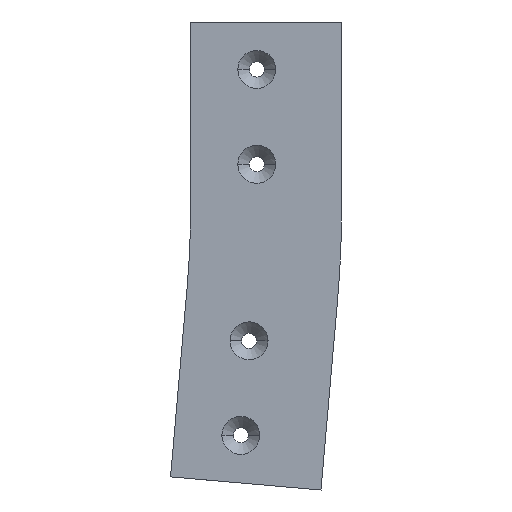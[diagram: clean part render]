
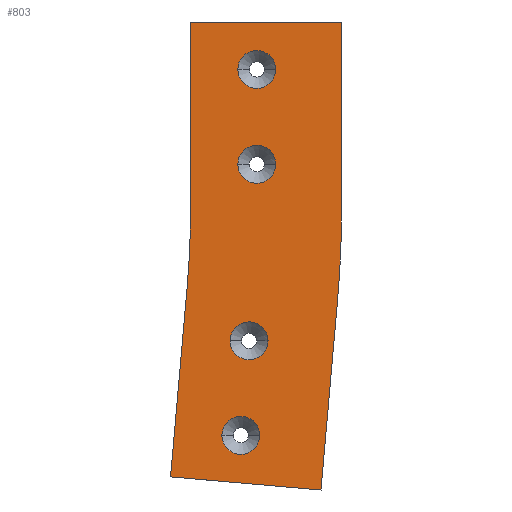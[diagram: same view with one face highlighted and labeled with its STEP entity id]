
A CAD part, left-side view. The second image highlights one B-rep face of the part: STEP entity #803.
In plain terms, the highlighted planar face has unit normal (-1, 0, 0).
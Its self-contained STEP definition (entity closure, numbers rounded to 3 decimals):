
#153 = DIRECTION ( 'NONE',  ( 0., -1., 0. ) ) ;
#154 = DIRECTION ( 'NONE',  ( -1., 0., 0. ) ) ;
#155 = CARTESIAN_POINT ( 'NONE',  ( -35., 39.8, -100. ) ) ;
#156 = PLANE ( 'NONE',  #2331 ) ;
#339 = CARTESIAN_POINT ( 'NONE',  ( -35., 39.8, 0. ) ) ;
#340 = CARTESIAN_POINT ( 'NONE',  ( -35., -5.2, -25. ) ) ;
#341 = CARTESIAN_POINT ( 'NONE',  ( -35., 41.551, -140.109 ) ) ;
#349 = CARTESIAN_POINT ( 'NONE',  ( -35., 3.221, -217.874 ) ) ;
#350 = CARTESIAN_POINT ( 'NONE',  ( -35., 50.267, -239.729 ) ) ;
#355 = CARTESIAN_POINT ( 'NONE',  ( -35., 39.8, -100. ) ) ;
#356 = CARTESIAN_POINT ( 'NONE',  ( -35., -5.2, -75. ) ) ;
#359 = CARTESIAN_POINT ( 'NONE',  ( -35., 18.863, -168.064 ) ) ;
#361 = CARTESIAN_POINT ( 'NONE',  ( -35., -29.03, -246.666 ) ) ;
#363 = CARTESIAN_POINT ( 'NONE',  ( -35., -37.746, -147.047 ) ) ;
#364 = CARTESIAN_POINT ( 'NONE',  ( -35., -1.137, -168.064 ) ) ;
#371 = CARTESIAN_POINT ( 'NONE',  ( -35., 23.221, -217.874 ) ) ;
#375 = CARTESIAN_POINT ( 'NONE',  ( -35., 14.8, -75. ) ) ;
#397 = CARTESIAN_POINT ( 'NONE',  ( -35., 14.8, -25. ) ) ;
#400 = CARTESIAN_POINT ( 'NONE',  ( -35., -39.8, 0. ) ) ;
#404 = CARTESIAN_POINT ( 'NONE',  ( -35., -39.8, -100. ) ) ;
#669 = VERTEX_POINT ( 'NONE', #404 ) ;
#673 = VERTEX_POINT ( 'NONE', #400 ) ;
#676 = VERTEX_POINT ( 'NONE', #397 ) ;
#698 = VERTEX_POINT ( 'NONE', #375 ) ;
#702 = VERTEX_POINT ( 'NONE', #371 ) ;
#709 = VERTEX_POINT ( 'NONE', #364 ) ;
#710 = VERTEX_POINT ( 'NONE', #363 ) ;
#712 = VERTEX_POINT ( 'NONE', #361 ) ;
#714 = VERTEX_POINT ( 'NONE', #359 ) ;
#717 = VERTEX_POINT ( 'NONE', #356 ) ;
#718 = VERTEX_POINT ( 'NONE', #355 ) ;
#723 = VERTEX_POINT ( 'NONE', #350 ) ;
#724 = VERTEX_POINT ( 'NONE', #349 ) ;
#732 = VERTEX_POINT ( 'NONE', #341 ) ;
#733 = VERTEX_POINT ( 'NONE', #340 ) ;
#734 = VERTEX_POINT ( 'NONE', #339 ) ;
#803 = ADVANCED_FACE ( 'NONE', ( #2949, #2948, #2947, #2946, #2945 ), #156, .T. ) ;
#873 = VECTOR ( 'NONE', #1880, 1000. ) ;
#874 = LINE ( 'NONE', #1886, #873 ) ;
#875 = VECTOR ( 'NONE', #1885, 1000. ) ;
#876 = CIRCLE ( 'NONE', #2212, 10. ) ;
#877 = LINE ( 'NONE', #1878, #875 ) ;
#878 = CIRCLE ( 'NONE', #2657, 10. ) ;
#879 = CIRCLE ( 'NONE', #2233, 10. ) ;
#881 = CIRCLE ( 'NONE', #2223, 10. ) ;
#886 = VECTOR ( 'NONE', #1836, 1000. ) ;
#888 = LINE ( 'NONE', #1826, #886 ) ;
#892 = CIRCLE ( 'NONE', #2232, 539.8 ) ;
#936 = CIRCLE ( 'NONE', #2189, 460.2 ) ;
#948 = VECTOR ( 'NONE', #1411, 1000. ) ;
#949 = LINE ( 'NONE', #1413, #948 ) ;
#1059 = VECTOR ( 'NONE', #1519, 1000. ) ;
#1063 = LINE ( 'NONE', #1520, #1059 ) ;
#1104 = VECTOR ( 'NONE', #1865, 1000. ) ;
#1110 = CIRCLE ( 'NONE', #2195, 10. ) ;
#1111 = LINE ( 'NONE', #1868, #1104 ) ;
#1123 = CIRCLE ( 'NONE', #2197, 10. ) ;
#1129 = CIRCLE ( 'NONE', #2200, 10. ) ;
#1135 = CIRCLE ( 'NONE', #2202, 10. ) ;
#1389 = DIRECTION ( 'NONE',  ( 0., 0., -1. ) ) ;
#1390 = DIRECTION ( 'NONE',  ( 1., 0., 0. ) ) ;
#1391 = CARTESIAN_POINT ( 'NONE',  ( -35., 500., -100. ) ) ;
#1411 = DIRECTION ( 'NONE',  ( 0., 0.087, -0.996 ) ) ;
#1413 = CARTESIAN_POINT ( 'NONE',  ( -35., -37.746, -147.047 ) ) ;
#1519 = DIRECTION ( 'NONE',  ( 0., 0.087, -0.996 ) ) ;
#1520 = CARTESIAN_POINT ( 'NONE',  ( -35., 41.551, -140.109 ) ) ;
#1577 = DIRECTION ( 'NONE',  ( 0., -1., 0. ) ) ;
#1578 = DIRECTION ( 'NONE',  ( 1., 0., 0. ) ) ;
#1582 = CARTESIAN_POINT ( 'NONE',  ( -35., 4.8, -25. ) ) ;
#1604 = DIRECTION ( 'NONE',  ( 0., -1., 0. ) ) ;
#1606 = DIRECTION ( 'NONE',  ( 1., 0., 0. ) ) ;
#1608 = CARTESIAN_POINT ( 'NONE',  ( -35., 4.8, -75. ) ) ;
#1623 = DIRECTION ( 'NONE',  ( 0., -1., 0. ) ) ;
#1624 = DIRECTION ( 'NONE',  ( 1., 0., 0. ) ) ;
#1625 = CARTESIAN_POINT ( 'NONE',  ( -35., 8.863, -168.064 ) ) ;
#1642 = DIRECTION ( 'NONE',  ( 0., -1., 0. ) ) ;
#1643 = DIRECTION ( 'NONE',  ( 1., 0., 0. ) ) ;
#1644 = CARTESIAN_POINT ( 'NONE',  ( -35., 13.221, -217.874 ) ) ;
#1826 = CARTESIAN_POINT ( 'NONE',  ( -35., -39.8, -100. ) ) ;
#1829 = DIRECTION ( 'NONE',  ( 1., 0., 0. ) ) ;
#1833 = CARTESIAN_POINT ( 'NONE',  ( -35., 500., -100. ) ) ;
#1835 = DIRECTION ( 'NONE',  ( 0., 0., -1. ) ) ;
#1836 = DIRECTION ( 'NONE',  ( 0., 0., 1. ) ) ;
#1838 = CARTESIAN_POINT ( 'NONE',  ( -35., 4.8, -25. ) ) ;
#1865 = DIRECTION ( 'NONE',  ( 0., -0.996, -0.087 ) ) ;
#1868 = CARTESIAN_POINT ( 'NONE',  ( -35., 50.267, -239.729 ) ) ;
#1875 = DIRECTION ( 'NONE',  ( 0., -1., 0. ) ) ;
#1876 = CARTESIAN_POINT ( 'NONE',  ( -35., 13.221, -217.874 ) ) ;
#1878 = CARTESIAN_POINT ( 'NONE',  ( -35., 39.8, 0. ) ) ;
#1880 = DIRECTION ( 'NONE',  ( 0., 0., 1. ) ) ;
#1881 = DIRECTION ( 'NONE',  ( 1., 0., 0. ) ) ;
#1882 = DIRECTION ( 'NONE',  ( 0., -1., 0. ) ) ;
#1885 = DIRECTION ( 'NONE',  ( 0., -1., 0. ) ) ;
#1886 = CARTESIAN_POINT ( 'NONE',  ( -35., 39.8, -100. ) ) ;
#1888 = CARTESIAN_POINT ( 'NONE',  ( -35., 8.863, -168.064 ) ) ;
#1889 = DIRECTION ( 'NONE',  ( 1., 0., 0. ) ) ;
#1890 = CARTESIAN_POINT ( 'NONE',  ( -35., 4.8, -75. ) ) ;
#1891 = DIRECTION ( 'NONE',  ( 1., 0., 0. ) ) ;
#1892 = DIRECTION ( 'NONE',  ( 0., -1., 0. ) ) ;
#1894 = DIRECTION ( 'NONE',  ( 1., 0., 0. ) ) ;
#1895 = DIRECTION ( 'NONE',  ( 0., -1., 0. ) ) ;
#2189 = AXIS2_PLACEMENT_3D ( 'NONE', #1391, #1390, #1389 ) ;
#2195 = AXIS2_PLACEMENT_3D ( 'NONE', #1582, #1578, #1577 ) ;
#2197 = AXIS2_PLACEMENT_3D ( 'NONE', #1608, #1606, #1604 ) ;
#2200 = AXIS2_PLACEMENT_3D ( 'NONE', #1625, #1624, #1623 ) ;
#2202 = AXIS2_PLACEMENT_3D ( 'NONE', #1644, #1643, #1642 ) ;
#2212 = AXIS2_PLACEMENT_3D ( 'NONE', #1876, #1881, #1882 ) ;
#2223 = AXIS2_PLACEMENT_3D ( 'NONE', #1838, #1894, #1895 ) ;
#2232 = AXIS2_PLACEMENT_3D ( 'NONE', #1833, #1829, #1835 ) ;
#2233 = AXIS2_PLACEMENT_3D ( 'NONE', #1890, #1891, #1892 ) ;
#2331 = AXIS2_PLACEMENT_3D ( 'NONE', #155, #154, #153 ) ;
#2598 = EDGE_CURVE ( 'NONE', #724, #702, #1135, .T. ) ;
#2602 = EDGE_CURVE ( 'NONE', #709, #714, #1129, .T. ) ;
#2606 = EDGE_CURVE ( 'NONE', #717, #698, #1123, .T. ) ;
#2612 = EDGE_CURVE ( 'NONE', #733, #676, #1110, .T. ) ;
#2632 = EDGE_CURVE ( 'NONE', #732, #723, #1063, .T. ) ;
#2657 = AXIS2_PLACEMENT_3D ( 'NONE', #1888, #1889, #1875 ) ;
#2672 = EDGE_CURVE ( 'NONE', #710, #712, #949, .T. ) ;
#2679 = EDGE_CURVE ( 'NONE', #718, #732, #936, .T. ) ;
#2707 = EDGE_CURVE ( 'NONE', #669, #710, #892, .T. ) ;
#2710 = EDGE_CURVE ( 'NONE', #669, #673, #888, .T. ) ;
#2712 = EDGE_CURVE ( 'NONE', #676, #733, #881, .T. ) ;
#2713 = EDGE_CURVE ( 'NONE', #698, #717, #879, .T. ) ;
#2714 = EDGE_CURVE ( 'NONE', #714, #709, #878, .T. ) ;
#2715 = EDGE_CURVE ( 'NONE', #702, #724, #876, .T. ) ;
#2716 = EDGE_CURVE ( 'NONE', #734, #673, #877, .T. ) ;
#2717 = EDGE_CURVE ( 'NONE', #718, #734, #874, .T. ) ;
#2719 = EDGE_CURVE ( 'NONE', #723, #712, #1111, .T. ) ;
#2731 = EDGE_LOOP ( 'NONE', ( #3216, #3214 ) ) ;
#2945 = FACE_OUTER_BOUND ( 'NONE', #3745, .T. ) ;
#2946 = FACE_BOUND ( 'NONE', #3754, .T. ) ;
#2947 = FACE_BOUND ( 'NONE', #3748, .T. ) ;
#2948 = FACE_BOUND ( 'NONE', #2731, .T. ) ;
#2949 = FACE_BOUND ( 'NONE', #3520, .T. ) ;
#3202 = ORIENTED_EDGE ( 'NONE', *, *, #2707, .F. ) ;
#3203 = ORIENTED_EDGE ( 'NONE', *, *, #2710, .T. ) ;
#3204 = ORIENTED_EDGE ( 'NONE', *, *, #2672, .F. ) ;
#3205 = ORIENTED_EDGE ( 'NONE', *, *, #2719, .T. ) ;
#3206 = ORIENTED_EDGE ( 'NONE', *, *, #2632, .T. ) ;
#3207 = ORIENTED_EDGE ( 'NONE', *, *, #2717, .F. ) ;
#3208 = ORIENTED_EDGE ( 'NONE', *, *, #2679, .T. ) ;
#3209 = ORIENTED_EDGE ( 'NONE', *, *, #2716, .F. ) ;
#3210 = ORIENTED_EDGE ( 'NONE', *, *, #2715, .T. ) ;
#3212 = ORIENTED_EDGE ( 'NONE', *, *, #2714, .T. ) ;
#3213 = ORIENTED_EDGE ( 'NONE', *, *, #2598, .T. ) ;
#3214 = ORIENTED_EDGE ( 'NONE', *, *, #2713, .T. ) ;
#3215 = ORIENTED_EDGE ( 'NONE', *, *, #2602, .T. ) ;
#3216 = ORIENTED_EDGE ( 'NONE', *, *, #2606, .T. ) ;
#3217 = ORIENTED_EDGE ( 'NONE', *, *, #2612, .T. ) ;
#3218 = ORIENTED_EDGE ( 'NONE', *, *, #2712, .T. ) ;
#3520 = EDGE_LOOP ( 'NONE', ( #3217, #3218 ) ) ;
#3745 = EDGE_LOOP ( 'NONE', ( #3209, #3207, #3208, #3206, #3205, #3204, #3202, #3203 ) ) ;
#3748 = EDGE_LOOP ( 'NONE', ( #3215, #3212 ) ) ;
#3754 = EDGE_LOOP ( 'NONE', ( #3213, #3210 ) ) ;
